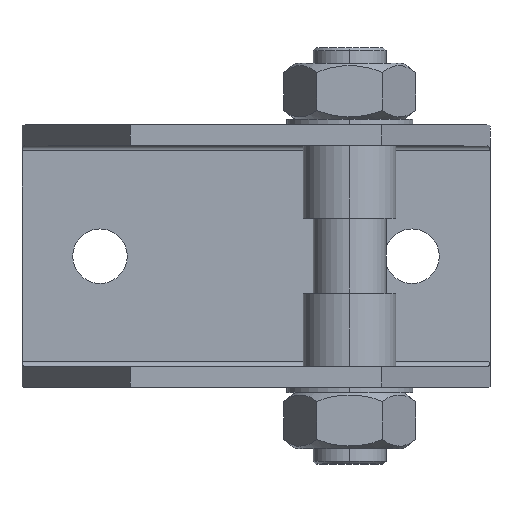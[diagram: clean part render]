
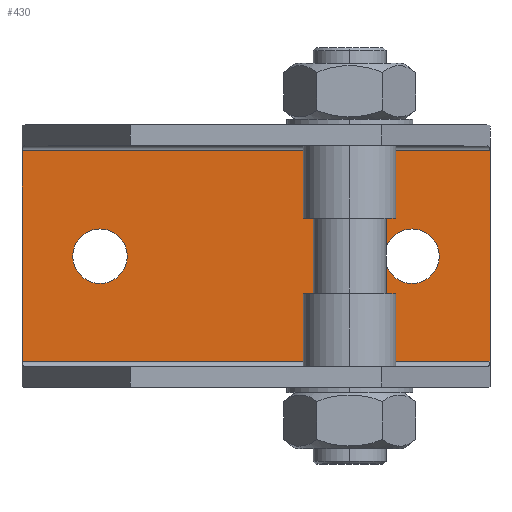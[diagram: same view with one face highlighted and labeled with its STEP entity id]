
A CAD part, top view. The second image highlights one B-rep face of the part: STEP entity #430.
In plain terms, the highlighted planar face has unit normal (0, 0, 1).
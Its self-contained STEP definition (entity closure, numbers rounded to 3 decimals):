
#30 = DIRECTION ( 'NONE',  ( 0., 1., 0. ) ) ;
#35 = AXIS2_PLACEMENT_3D ( 'NONE', #1468, #1868, #821 ) ;
#75 = CARTESIAN_POINT ( 'NONE',  ( 45., -20.25, 4. ) ) ;
#110 = DIRECTION ( 'NONE',  ( 1., 0., 0. ) ) ;
#111 = LINE ( 'NONE', #446, #203 ) ;
#157 = EDGE_LOOP ( 'NONE', ( #1646, #1874, #908, #1260 ) ) ;
#201 = AXIS2_PLACEMENT_3D ( 'NONE', #2498, #1616, #2257 ) ;
#203 = VECTOR ( 'NONE', #476, 1000. ) ;
#278 = AXIS2_PLACEMENT_3D ( 'NONE', #2635, #729, #110 ) ;
#342 = CARTESIAN_POINT ( 'NONE',  ( 45., 20.25, 4. ) ) ;
#418 = FACE_BOUND ( 'NONE', #1739, .T. ) ;
#430 = ADVANCED_FACE ( 'NONE', ( #418, #758, #2023 ), #960, .T. ) ;
#437 = EDGE_CURVE ( 'NONE', #2330, #1878, #1595, .T. ) ;
#446 = CARTESIAN_POINT ( 'NONE',  ( 0., 20.25, 4. ) ) ;
#476 = DIRECTION ( 'NONE',  ( -1., 0., 0. ) ) ;
#520 = DIRECTION ( 'NONE',  ( 0., 0., 1. ) ) ;
#729 = DIRECTION ( 'NONE',  ( 0., 0., 1. ) ) ;
#752 = CARTESIAN_POINT ( 'NONE',  ( -45., -25.25, 4. ) ) ;
#758 = FACE_BOUND ( 'NONE', #2316, .T. ) ;
#783 = CARTESIAN_POINT ( 'NONE',  ( 0., -20.25, 4. ) ) ;
#785 = VECTOR ( 'NONE', #2229, 1000. ) ;
#816 = EDGE_CURVE ( 'NONE', #1355, #2230, #2005, .T. ) ;
#821 = DIRECTION ( 'NONE',  ( 1., 0., 0. ) ) ;
#828 = AXIS2_PLACEMENT_3D ( 'NONE', #2380, #520, #2184 ) ;
#855 = EDGE_CURVE ( 'NONE', #2230, #2330, #111, .T. ) ;
#908 = ORIENTED_EDGE ( 'NONE', *, *, #816, .T. ) ;
#916 = VECTOR ( 'NONE', #1974, 1000. ) ;
#947 = CIRCLE ( 'NONE', #2648, 5.25 ) ;
#960 = PLANE ( 'NONE',  #828 ) ;
#1068 = VERTEX_POINT ( 'NONE', #1579 ) ;
#1131 = VERTEX_POINT ( 'NONE', #1410 ) ;
#1156 = ORIENTED_EDGE ( 'NONE', *, *, #2385, .F. ) ;
#1202 = DIRECTION ( 'NONE',  ( 1., 0., 0. ) ) ;
#1236 = CARTESIAN_POINT ( 'NONE',  ( 45., -25.25, 4. ) ) ;
#1260 = ORIENTED_EDGE ( 'NONE', *, *, #855, .T. ) ;
#1327 = CIRCLE ( 'NONE', #201, 5.25 ) ;
#1343 = VERTEX_POINT ( 'NONE', #1959 ) ;
#1355 = VERTEX_POINT ( 'NONE', #75 ) ;
#1410 = CARTESIAN_POINT ( 'NONE',  ( -35.25, 0., 4. ) ) ;
#1434 = CARTESIAN_POINT ( 'NONE',  ( -24.75, 0., 4. ) ) ;
#1468 = CARTESIAN_POINT ( 'NONE',  ( -30., 0., 4. ) ) ;
#1579 = CARTESIAN_POINT ( 'NONE',  ( 35.25, 0., 4. ) ) ;
#1595 = LINE ( 'NONE', #752, #916 ) ;
#1598 = DIRECTION ( 'NONE',  ( 0., 0., 1. ) ) ;
#1616 = DIRECTION ( 'NONE',  ( 0., 0., 1. ) ) ;
#1642 = VECTOR ( 'NONE', #30, 1000. ) ;
#1646 = ORIENTED_EDGE ( 'NONE', *, *, #437, .T. ) ;
#1710 = ORIENTED_EDGE ( 'NONE', *, *, #1873, .F. ) ;
#1739 = EDGE_LOOP ( 'NONE', ( #1710, #2206 ) ) ;
#1810 = EDGE_CURVE ( 'NONE', #1343, #1068, #947, .T. ) ;
#1821 = EDGE_CURVE ( 'NONE', #1878, #1355, #2276, .T. ) ;
#1868 = DIRECTION ( 'NONE',  ( 0., 0., 1. ) ) ;
#1873 = EDGE_CURVE ( 'NONE', #1068, #1343, #1327, .T. ) ;
#1874 = ORIENTED_EDGE ( 'NONE', *, *, #1821, .T. ) ;
#1878 = VERTEX_POINT ( 'NONE', #2059 ) ;
#1904 = ORIENTED_EDGE ( 'NONE', *, *, #2541, .F. ) ;
#1959 = CARTESIAN_POINT ( 'NONE',  ( 24.75, 0., 4. ) ) ;
#1974 = DIRECTION ( 'NONE',  ( 0., -1., 0. ) ) ;
#2005 = LINE ( 'NONE', #1236, #1642 ) ;
#2023 = FACE_OUTER_BOUND ( 'NONE', #157, .T. ) ;
#2059 = CARTESIAN_POINT ( 'NONE',  ( -45., -20.25, 4. ) ) ;
#2068 = VERTEX_POINT ( 'NONE', #1434 ) ;
#2184 = DIRECTION ( 'NONE',  ( 1., 0., 0. ) ) ;
#2206 = ORIENTED_EDGE ( 'NONE', *, *, #1810, .F. ) ;
#2229 = DIRECTION ( 'NONE',  ( 1., 0., 0. ) ) ;
#2230 = VERTEX_POINT ( 'NONE', #342 ) ;
#2257 = DIRECTION ( 'NONE',  ( 1., 0., 0. ) ) ;
#2276 = LINE ( 'NONE', #783, #785 ) ;
#2316 = EDGE_LOOP ( 'NONE', ( #1156, #1904 ) ) ;
#2330 = VERTEX_POINT ( 'NONE', #2603 ) ;
#2372 = CIRCLE ( 'NONE', #278, 5.25 ) ;
#2380 = CARTESIAN_POINT ( 'NONE',  ( 0., 0., 4. ) ) ;
#2385 = EDGE_CURVE ( 'NONE', #2068, #1131, #2626, .T. ) ;
#2498 = CARTESIAN_POINT ( 'NONE',  ( 30., 0., 4. ) ) ;
#2541 = EDGE_CURVE ( 'NONE', #1131, #2068, #2372, .T. ) ;
#2603 = CARTESIAN_POINT ( 'NONE',  ( -45., 20.25, 4. ) ) ;
#2626 = CIRCLE ( 'NONE', #35, 5.25 ) ;
#2635 = CARTESIAN_POINT ( 'NONE',  ( -30., 0., 4. ) ) ;
#2636 = CARTESIAN_POINT ( 'NONE',  ( 30., 0., 4. ) ) ;
#2648 = AXIS2_PLACEMENT_3D ( 'NONE', #2636, #1598, #1202 ) ;
